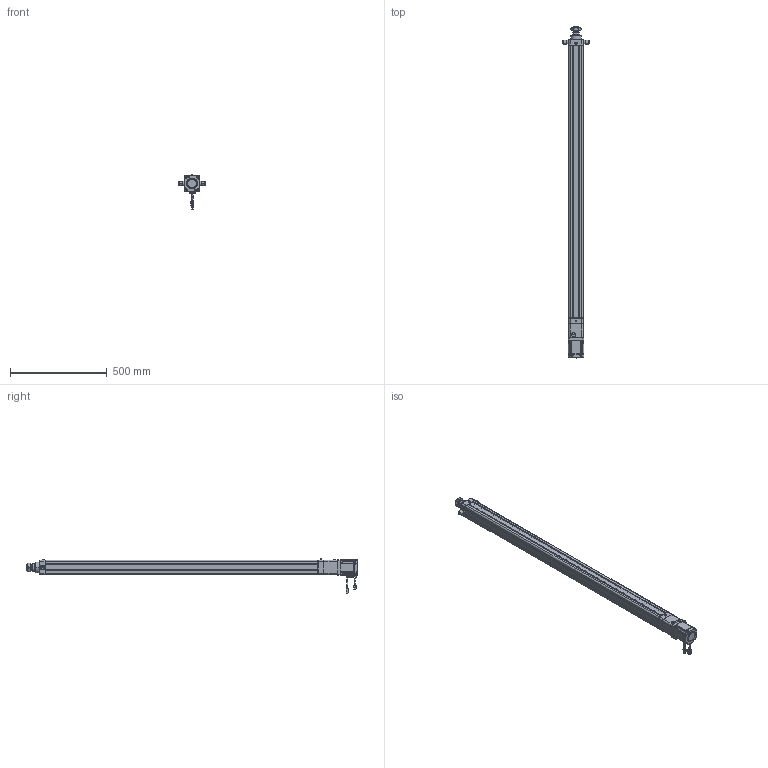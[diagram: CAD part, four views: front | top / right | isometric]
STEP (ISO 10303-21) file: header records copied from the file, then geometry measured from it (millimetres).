
FILE_DESCRIPTION((''),'2;1');
FILE_NAME('HE63-D-100-X1_ASM','2020-05-15T',('ASUS20200'),(''),'CREO PARAMETRIC BY PTC INC, 2014190','CREO PARAMETRIC BY PTC INC, 2014190','');
FILE_SCHEMA(('CONFIG_CONTROL_DESIGN'));
Length unit declared in the file: millimetre
Products named in the file (27): HE63-D-P-001-X1; HE63-D-P-002-X1; HE63-D-P-003-X1; LGLM-M8-22; HE63-D-009-X1; HE63-D-010-X1; M6X16; _MHMF082L1A2; _CABLE_MOTOR_BOTTOM_05; _CABLE_MOTOR_TOP_05; _MOTOR_CONNECTOR_2; _CABLE_BRAKE_BOTTOM_05; _CABLE_BRAKE_TOP_05; _MHMF_CONNECTOR_9_PIN_A6; MHMF082L1A2M2_1_ASM; SLM-01; YZ-M6X1; SKT-16; TD-6; JDB405030; JX6X6X25; HE63-D-P-005-X1; HE63-D-P-004-X1; HE63-D-P-008-X1; M6X25; HE63-TC; HE63-D-100-X1_ASM
Assembly tree (43 placements, depth 3):
  HE63-D-100-X1_ASM
    HE63-D-P-001-X1
    HE63-D-P-002-X1
    HE63-D-P-003-X1
    LGLM-M8-22  x8
    HE63-D-009-X1
    HE63-D-010-X1
    M6X16  x4
    MHMF082L1A2M2_1_ASM
      _MHMF082L1A2
      _CABLE_MOTOR_BOTTOM_05
      _CABLE_MOTOR_TOP_05
      _MOTOR_CONNECTOR_2
      _CABLE_BRAKE_BOTTOM_05
      _CABLE_BRAKE_TOP_05
      _MHMF_CONNECTOR_9_PIN_A6
    SLM-01
    YZ-M6X1
    SKT-16
    TD-6  x4
    JDB405030
    JX6X6X25
    HE63-D-P-005-X1
    HE63-D-P-004-X1
    HE63-D-P-008-X1
    M6X25  x4
    HE63-TC  x2
Bounding box: 135 x 1716.9 x 179.15 mm (x, y, z)
Volume: 4107023.3 mm3; surface area: 1266107.2 mm2
Topology: 42 solids, 71 shells, 2466 faces, 6027 edges, 3777 vertices
Faces by surface type: plane 1057, cylinder 729, cone 507, torus 126, sphere 44, bspline 3
Entity records: 61396 total; most frequent: CARTESIAN_POINT 11687, DIRECTION 10919, ORIENTED_EDGE 9760, EDGE_CURVE 4933, AXIS2_PLACEMENT_3D 4089, VERTEX_POINT 3123, VECTOR 2741, LINE 2741
